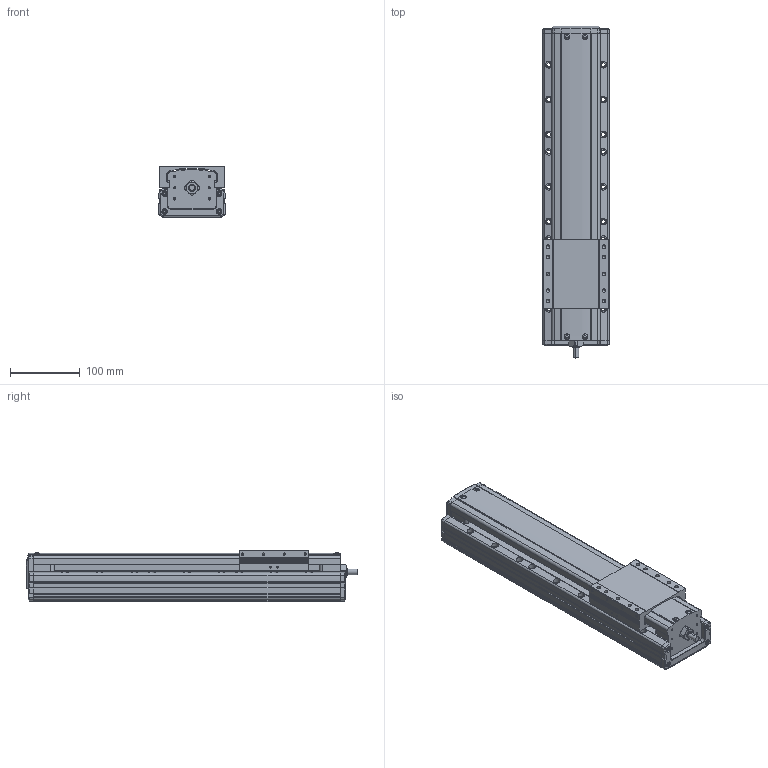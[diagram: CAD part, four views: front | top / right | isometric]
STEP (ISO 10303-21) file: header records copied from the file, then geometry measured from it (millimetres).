
FILE_DESCRIPTION(('STEP AP214'),'1');
FILE_NAME('Z:/Web/3D/PSA95/STP/PSA95-250 (3D)/PSA95ㅁㅁ-250.stp','2014-07-02T23:56:48',(' '),(' '),'Spatial InterOp 3D',' ',' ');
FILE_SCHEMA(('automotive_design'));
Length unit declared in the file: millimetre
Products named in the file (18): BASE; RRCV; 스크루 : Round - M4.0 x 10.0; 너트 : Square - M10.0 x 220.7419; RR1500; FRCV-090; 스크루 : Round - M4.0 x 6.0; SLBL-PA90
Bounding box: 95 x 476 x 74 mm (x, y, z)
Volume: 2485594.1 mm3; surface area: 282454.1 mm2
Topology: 18 solids, 18 shells, 1791 faces, 4842 edges, 3090 vertices
Faces by surface type: plane 1007, cylinder 543, cone 173, sphere 30, bspline 24, torus 14
Entity records: 72571 total; most frequent: CARTESIAN_POINT 12712, ORIENTED_EDGE 9452, DIRECTION 9418, EDGE_CURVE 4726, LINE 3278, VECTOR 3278, VERTEX_POINT 3090, AXIS2_PLACEMENT_3D 3070
